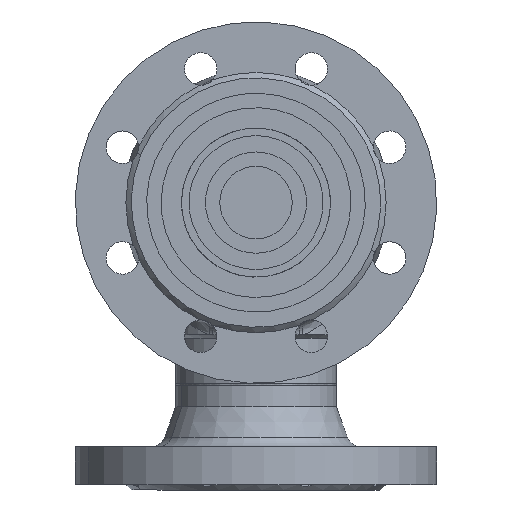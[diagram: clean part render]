
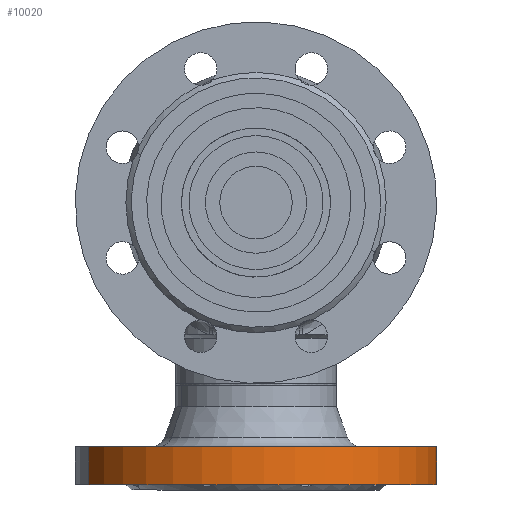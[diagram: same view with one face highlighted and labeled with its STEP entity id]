
A CAD part, front view. The second image highlights one B-rep face of the part: STEP entity #10020.
In plain terms, the highlighted cylindrical face has radius 100 mm (diameter 200 mm), a partial arc.
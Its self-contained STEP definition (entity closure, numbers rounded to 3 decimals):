
#17907 = CARTESIAN_POINT ( 'NONE',  ( 100., 24., 0. ) ) ;
#18085 = LINE ( 'NONE', #18086, #18087 ) ;
#18086 = CARTESIAN_POINT ( 'NONE',  ( 100., 75., 0. ) ) ;
#18087 = VECTOR ( 'NONE', #18088, 1000. ) ;
#18088 = DIRECTION ( 'NONE',  ( 0., 1., 0. ) ) ;
#1806 = CIRCLE ( 'NONE', #1807, 100. ) ;
#1807 = AXIS2_PLACEMENT_3D ( 'NONE', #1808, #1809, #1810 ) ;
#1808 = CARTESIAN_POINT ( 'NONE',  ( 0., 3., 0. ) ) ;
#1809 = DIRECTION ( 'NONE',  ( 0., 1., 0. ) ) ;
#1810 = DIRECTION ( 'NONE',  ( -1., 0., 0. ) ) ;
#18435 = CIRCLE ( 'NONE', #18436, 100. ) ;
#18436 = AXIS2_PLACEMENT_3D ( 'NONE', #18437, #18438, #18439 ) ;
#18437 = CARTESIAN_POINT ( 'NONE',  ( 0., 24., 0. ) ) ;
#18438 = DIRECTION ( 'NONE',  ( 0., 1., 0. ) ) ;
#18439 = DIRECTION ( 'NONE',  ( -1., 0., 0. ) ) ;
#2139 = EDGE_CURVE ( 'NONE', #5943, #3026, #10976, .T. ) ;
#18894 = CARTESIAN_POINT ( 'NONE',  ( 100., 3., 0. ) ) ;
#19061 = CARTESIAN_POINT ( 'NONE',  ( -100., 3., 0. ) ) ;
#3026 = VERTEX_POINT ( 'NONE', #14479 ) ;
#4145 = VERTEX_POINT ( 'NONE', #17907 ) ;
#4364 = EDGE_CURVE ( 'NONE', #5536, #4145, #18085, .T. ) ;
#5520 = FACE_OUTER_BOUND ( 'NONE', #9783, .T. ) ;
#5521 = CYLINDRICAL_SURFACE ( 'NONE', #5522, 100. ) ;
#5522 = AXIS2_PLACEMENT_3D ( 'NONE', #5523, #5524, #5525 ) ;
#5523 = CARTESIAN_POINT ( 'NONE',  ( 0., 75., 0. ) ) ;
#5524 = DIRECTION ( 'NONE',  ( 0., 1., 0. ) ) ;
#5525 = DIRECTION ( 'NONE',  ( -1., 0., 0. ) ) ;
#5536 = VERTEX_POINT ( 'NONE', #18894 ) ;
#5943 = VERTEX_POINT ( 'NONE', #19061 ) ;
#7375 = ORIENTED_EDGE ( 'NONE', *, *, #10405, .F. ) ;
#7886 = ORIENTED_EDGE ( 'NONE', *, *, #2139, .T. ) ;
#8394 = EDGE_CURVE ( 'NONE', #5536, #5943, #1806, .T. ) ;
#8768 = ORIENTED_EDGE ( 'NONE', *, *, #8394, .T. ) ;
#9274 = ORIENTED_EDGE ( 'NONE', *, *, #4364, .F. ) ;
#9783 = EDGE_LOOP ( 'NONE', ( #9274, #8768, #7886, #7375 ) ) ;
#10020 = ADVANCED_FACE ( 'NONE', ( #5520 ), #5521, .T. ) ;
#10405 = EDGE_CURVE ( 'NONE', #4145, #3026, #18435, .T. ) ;
#10976 = LINE ( 'NONE', #10977, #10978 ) ;
#10977 = CARTESIAN_POINT ( 'NONE',  ( -100., 75., 0. ) ) ;
#10978 = VECTOR ( 'NONE', #10979, 1000. ) ;
#10979 = DIRECTION ( 'NONE',  ( 0., 1., 0. ) ) ;
#14479 = CARTESIAN_POINT ( 'NONE',  ( -100., 24., 0. ) ) ;
